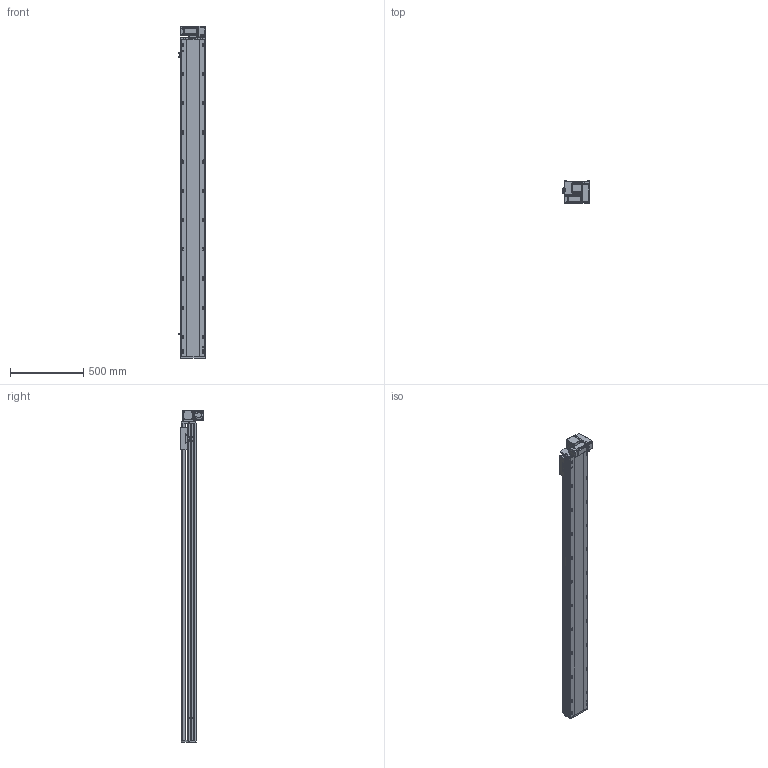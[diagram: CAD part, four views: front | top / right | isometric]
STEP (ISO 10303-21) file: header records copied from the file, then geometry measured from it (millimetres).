
FILE_DESCRIPTION (( 'STEP AP214' ), '1' );
FILE_NAME ('RTB17S-XX-1900-RM-M40-C4.STEP', '2025-12-11T08:24:05', ( '' ), ( '' ), 'SwSTEP 2.0', 'SolidWorks 2018', '' );
FILE_SCHEMA (( 'AUTOMOTIVE_DESIGN' ));
Length unit declared in the file: millimetre
Products named in the file (14): RTB17S-RM-々湍釱蚾饜-400W^RTB17S-XX-XX-RM-M40-C4; RTB17S-L-004佪裝蹟譫蟀諉釱^RTB17S-XX-XX-RM-M40-C4; RTB17S-L-014-T20--々湍釱^RTB17S-RM-々湍釱蚾饜-400W_RTB17S-XX-XX-RM-M40-C4; RTB14-L-008-M20--萇儂啣^RTB17S-RM-々湍釱蚾饜-400W_RTB17S-XX-XX-RM-M40-C4; OMRON EE-SX672 传感器^RTB17S-XX-XX-RM-M40-C4; RTB17-R-011菁釱^RTB17S-XX-XX-RM-M40-C4; RTB17S-L-007奻裔^RTB17S-XX-XX-RM-M40-C4; RTB17S-XX-1900-RM-M40-C4; RTB14-L-005P--轴承塑胶压盖^RTB17S-RM-皮带座装配-400W_RTB17S-XX-XX-RM-M40-C4; 400W侜督萇儂^RTB17S-XX-XX-RM-M40-C4; RTB17S-L-001耜醱啣^RTB17S-XX-XX-RM-M40-C4; RTH13-BL-012覜茼え俋离^RTB17S-XX-XX-RM-M40-C4; RTB14-L-018P^RTB17S-RM-々湍釱蚾饜-400W_RTB17S-XX-XX-RM-M40-C4; RTB14-L-017P^RTB17S-RM-々湍釱蚾饜-400W_RTB17S-XX-XX-RM-M40-C4
Assembly tree (16 placements, depth 3):
  RTB17S-XX-1900-RM-M40-C4
    RTB17-R-011菁釱^RTB17S-XX-XX-RM-M40-C4
    RTB17S-L-007奻裔^RTB17S-XX-XX-RM-M40-C4
    OMRON EE-SX672 传感器^RTB17S-XX-XX-RM-M40-C4  x3
    RTB17S-L-001耜醱啣^RTB17S-XX-XX-RM-M40-C4
    400W侜督萇儂^RTB17S-XX-XX-RM-M40-C4
    RTB17S-L-004佪裝蹟譫蟀諉釱^RTB17S-XX-XX-RM-M40-C4
    RTH13-BL-012覜茼え俋离^RTB17S-XX-XX-RM-M40-C4
    RTB17S-RM-々湍釱蚾饜-400W^RTB17S-XX-XX-RM-M40-C4
      RTB17S-L-014-T20--々湍釱^RTB17S-RM-々湍釱蚾饜-400W_RTB17S-XX-XX-RM-M40-C4
      RTB14-L-005P--轴承塑胶压盖^RTB17S-RM-皮带座装配-400W_RTB17S-XX-XX-RM-M40-C4
      RTB14-L-008-M20--萇儂啣^RTB17S-RM-々湍釱蚾饜-400W_RTB17S-XX-XX-RM-M40-C4
      RTB14-L-017P^RTB17S-RM-々湍釱蚾饜-400W_RTB17S-XX-XX-RM-M40-C4  x2
      RTB14-L-018P^RTB17S-RM-々湍釱蚾饜-400W_RTB17S-XX-XX-RM-M40-C4
Bounding box: 183.5 x 156.5 x 2272.5 mm (x, y, z)
Volume: 19711159.2 mm3; surface area: 2299326.4 mm2
Topology: 15 solids, 15 shells, 2285 faces, 6357 edges, 4149 vertices
Faces by surface type: plane 1078, cylinder 759, bspline 301, cone 139, torus 8
Entity records: 66473 total; most frequent: CARTESIAN_POINT 18762, ORIENTED_EDGE 9558, DIRECTION 8846, EDGE_CURVE 4779, VERTEX_POINT 3137, AXIS2_PLACEMENT_3D 3067, VECTOR 2712, LINE 2712
